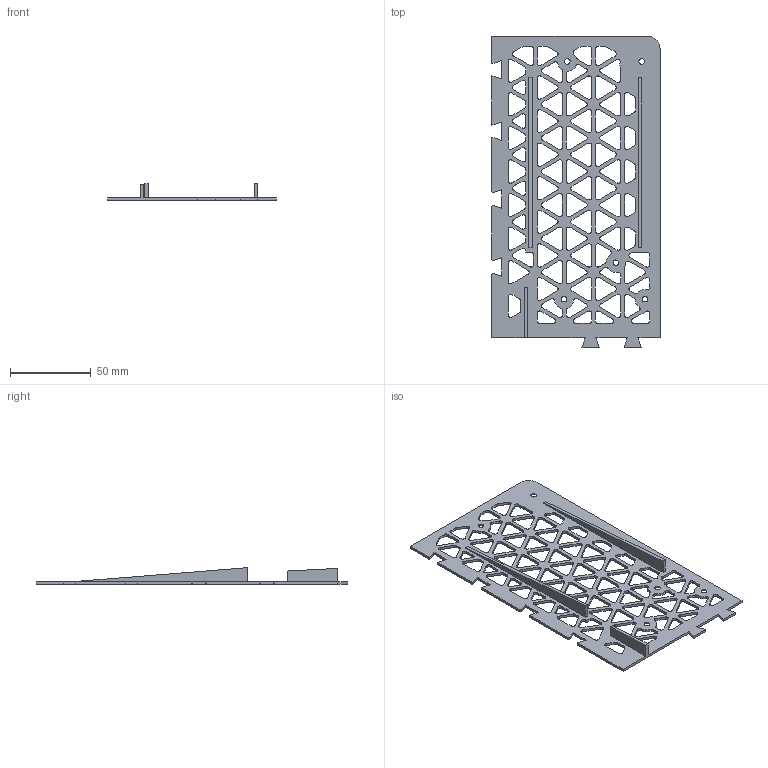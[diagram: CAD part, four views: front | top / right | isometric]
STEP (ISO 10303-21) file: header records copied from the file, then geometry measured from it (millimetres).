
FILE_DESCRIPTION(('Open CASCADE Model'),'2;1');
FILE_NAME('cover_RR','2026-11-19T00:45:43',('Author'),('Open CASCADE'), 'Open CASCADE STEP processor 8.0','build123d','Unknown');
FILE_SCHEMA(('AUTOMOTIVE_DESIGN { 1 0 10303 214 1 1 1 1 }'));
Length unit declared in the file: millimetre
Products named in the file (1): cover_RR
Bounding box: 104.08 x 192.49 x 10.34 mm (x, y, z)
Volume: 20837.7 mm3; surface area: 31710 mm2
Topology: 1 solids, 1 shells, 576 faces, 1711 edges, 1139 vertices
Faces by surface type: plane 292, cylinder 279, cone 5
Full cylindrical faces by diameter (mm): 3.4 x5
Entity records: 42558 total; most frequent: CARTESIAN_POINT 11275, DIRECTION 5176, ORIENTED_EDGE 3422, PCURVE 3422, DEFINITIONAL_REPRESENTATION 3422, LINE 2876, VECTOR 2876, EDGE_CURVE 1711
